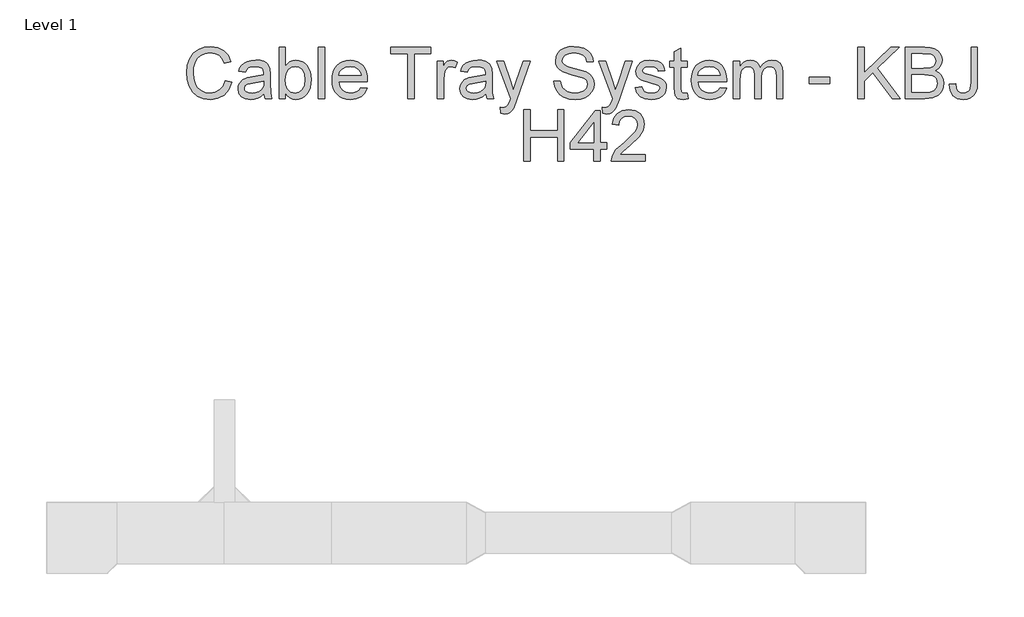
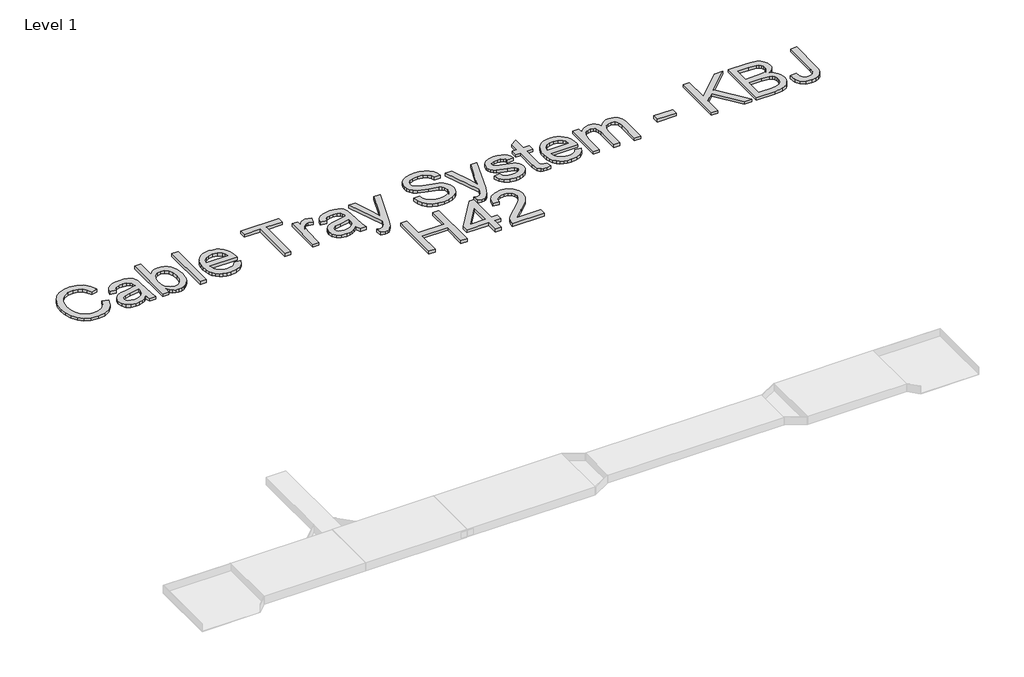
# One storey, part 31 of 106: 1 proxy.
"""IFC4 building model written with IfcOpenShell, lengths in millimetres."""

import ifcopenshell
import ifcopenshell.guid

model = None  # the IFC model being written
_history = None  # IfcOwnerHistory: only IFC2X3 demands one
_inside = {}  # id of a spatial element -> (the spatial element, [elements in it])
_under = {}  # id of a project, library or spatial element -> (it, [spatial elements below it])
_declared = {}  # id of a project -> (the project, [libraries it declares])
_typed = {}  # id of a type object -> (the type object, [elements of that type])
_made_of = {}  # id of a material, layer set ... -> (it, [elements and type objects made of it])


def new_model(schema):
    """Start an empty IFC model of exactly this schema.

    Asked for "IFC4X3", IfcOpenShell would pick the latest addendum, in which some entities
    have other attributes; the version numbers below select the first issue.
    IFC2X3 requires an IfcOwnerHistory on every rooted entity: one is made here for all.
    """
    global model, _history
    if schema == "IFC4X3":
        model = ifcopenshell.file(schema_version=(4, 3, 0, 0))
    else:
        model = ifcopenshell.file(schema=schema)
    _inside.clear()
    _under.clear()
    _declared.clear()
    _typed.clear()
    _made_of.clear()
    _history = None
    if model.schema == "IFC2X3":
        org = make("IfcOrganization", Name="unknown")
        user = make(
            "IfcPersonAndOrganization",
            ThePerson=make("IfcPerson", FamilyName="unknown"),
            TheOrganization=org,
        )
        app = make(
            "IfcApplication",
            ApplicationDeveloper=org,
            Version="unknown",
            ApplicationFullName="unknown",
            ApplicationIdentifier="unknown",
        )
        _history = make(
            "IfcOwnerHistory",
            OwningUser=user,
            OwningApplication=app,
            ChangeAction="ADDED",
            CreationDate=0,
        )
    return model


def make(cls, **values):
    """One entity of the class cls with the attributes given. An attribute that is None is left unset."""
    return model.create_entity(
        cls, **{name: value for name, value in values.items() if value is not None}
    )


def rooted(cls, **values):
    """An entity with a GlobalId (a new one), such as an element, a storey or a relation."""
    return make(cls, GlobalId=ifcopenshell.guid.new(), OwnerHistory=_history, **values)


def si_unit(unit_type, name, prefix=None):
    """IfcSIUnit, for example si_unit("LENGTHUNIT", "METRE", prefix="MILLI")."""
    return make("IfcSIUnit", UnitType=unit_type, Prefix=prefix, Name=name)


def assignment(units):
    """IfcUnitAssignment: the units of a project."""
    return None if units is None else make("IfcUnitAssignment", Units=units)


def point(xyz):
    """IfcCartesianPoint."""
    return None if xyz is None else make("IfcCartesianPoint", Coordinates=xyz)


def direction(xyz):
    """IfcDirection."""
    return None if xyz is None else make("IfcDirection", DirectionRatios=xyz)


def frame(location, z_axis=None, x_axis=None):
    """IfcAxis2Placement3D, a coordinate frame: its origin and axes. An axis left out is left unset."""
    return make(
        "IfcAxis2Placement3D",
        Location=point(location),
        Axis=direction(z_axis),
        RefDirection=direction(x_axis),
    )


def origin():
    """The frame at (0, 0, 0) with its axes left unset."""
    return frame((0.0, 0.0, 0.0))


def origin_with_axes():
    """The frame at (0, 0, 0) with the z axis (0, 0, 1) and the x axis (1, 0, 0) written out."""
    return frame((0.0, 0.0, 0.0), z_axis=(0.0, 0.0, 1.0), x_axis=(1.0, 0.0, 0.0))


def place(relative_to, where):
    """IfcLocalPlacement: puts the frame where relative to a parent placement (None: the world)."""
    return make(
        "IfcLocalPlacement", PlacementRelTo=relative_to, RelativePlacement=where
    )


def context(
    kind, dimensions, precision=None, world=None, true_north=None, identifier=None
):
    """IfcGeometricRepresentationContext, for example the 3D "Model" context."""
    return make(
        "IfcGeometricRepresentationContext",
        ContextIdentifier=identifier,
        ContextType=kind,
        CoordinateSpaceDimension=dimensions,
        Precision=precision,
        WorldCoordinateSystem=world,
        TrueNorth=true_north,
    )


def project(units=None, contexts=None):
    """IfcProject with its units and contexts."""
    return rooted(
        "IfcProject",
        Name="project",
        RepresentationContexts=contexts,
        UnitsInContext=assignment(units),
    )


def spatial(cls, under=None, at=None, **own):
    """A site, building, storey or space (cls), placed at a placement, below another one or the project."""
    s = rooted(cls, ObjectPlacement=at, **own)
    if under is not None:
        _under.setdefault(under.id(), (under, []))[1].append(s)
    return s


def polyline(points):
    """IfcPolyline through the points."""
    return make("IfcPolyline", Points=[point(p) for p in points])


def outline(outer, holes=None, kind="AREA"):
    """IfcArbitraryClosedProfileDef: a profile drawn as a closed curve; with holes, ...WithVoids."""
    if holes is None:
        return make("IfcArbitraryClosedProfileDef", ProfileType=kind, OuterCurve=outer)
    return make(
        "IfcArbitraryProfileDefWithVoids",
        ProfileType=kind,
        OuterCurve=outer,
        InnerCurves=holes,
    )


def extrude(swept, where, along, depth):
    """IfcExtrudedAreaSolid: the profile swept, set in the frame where, extruded along a direction by depth."""
    return make(
        "IfcExtrudedAreaSolid",
        SweptArea=swept,
        Position=where,
        ExtrudedDirection=direction(along),
        Depth=depth,
    )


def shape(context_of_items, identifier, shape_type, items):
    """IfcShapeRepresentation: the items that make up one representation, for example the "Body"."""
    return make(
        "IfcShapeRepresentation",
        ContextOfItems=context_of_items,
        RepresentationIdentifier=identifier,
        RepresentationType=shape_type,
        Items=items,
    )


def made_of(thing, what):
    """Note that an element or type object is made of a material, layer set ...; save() writes the relation."""
    if what is not None:
        _made_of.setdefault(what.id(), (what, []))[1].append(thing)
    return thing


def element(
    cls,
    number,
    at=None,
    inside=None,
    cuts=None,
    type_object=None,
    material=None,
    context=None,
    identifier="Body",
    shape_type=None,
    held_by="IfcProductDefinitionShape",
    body=None,
    shapes=None,
    **own,
):
    """One element of the class cls, such as IfcWall. Its Tag is "e" and its number.

    at: its placement. inside: the storey or other place that contains it. cuts: it is an
    opening in that element (IfcRelVoidsElement). A single representation is given by context,
    identifier, shape_type and body (its items); several are given by shapes. held_by: the class
    of the entity that holds the representations. save() writes the other relations.
    """
    e = rooted(cls, Tag="e%d" % number, ObjectPlacement=at, **own)
    if body is not None:
        shapes = [shape(context, identifier, shape_type, body)]
    if shapes is not None:
        e.Representation = make(held_by, Representations=shapes)
    if inside is not None:
        _inside.setdefault(inside.id(), (inside, []))[1].append(e)
    if cuts is not None:
        rooted(
            "IfcRelVoidsElement", RelatingBuildingElement=cuts, RelatedOpeningElement=e
        )
    if type_object is not None:
        _typed.setdefault(type_object.id(), (type_object, []))[1].append(e)
    return made_of(e, material)


def aggregate(whole, parts):
    """IfcRelAggregates: a whole, such as a stair, and the parts it consists of."""
    return rooted("IfcRelAggregates", RelatingObject=whole, RelatedObjects=parts)


def save(model, path):
    """Write the relations noted so far, then the file.

    IfcRelAggregates (storeys below a building ...), IfcRelContainedInSpatialStructure (elements
    in a storey), IfcRelDefinesByType, IfcRelAssociatesMaterial and IfcRelDeclares: one each for
    every whole, place, type object, material and project.
    """
    for whole, parts in _under.values():
        aggregate(whole, parts)
    for where, things in _inside.values():
        rooted(
            "IfcRelContainedInSpatialStructure",
            RelatedElements=things,
            RelatingStructure=where,
        )
    for kind, things in _typed.values():
        rooted("IfcRelDefinesByType", RelatedObjects=things, RelatingType=kind)
    for what, things in _made_of.values():
        rooted("IfcRelAssociatesMaterial", RelatedObjects=things, RelatingMaterial=what)
    for by, libraries in _declared.values():
        rooted("IfcRelDeclares", RelatingContext=by, RelatedDefinitions=libraries)
    model.write(path)


model = new_model("IFC4")

# Units and contexts
model_context = context("Model", 3, world=origin())
ifc_project = project(units=[si_unit("LENGTHUNIT", "METRE", prefix="MILLI")], contexts=[model_context])

# Site, building, storey
site = spatial("IfcSite", under=ifc_project)
building = spatial("IfcBuilding", under=site)
storey = spatial("IfcBuildingStorey", under=building, Name="Level 1", Elevation=0.0)

# Proxy
placement = place(None, origin())
element("IfcBuildingElementProxy", 1, Name="250mm Arial 3", ObjectType="250mm Arial 3", at=placement, inside=storey, context=model_context, shape_type="SweptSolid", body=[
    extrude(outline(polyline([(-19320.7509883, 71592.4106539), (-19289.3583914, 71584.31725), (-19303.8437449, 71547.7359841), (-19326.5757865, 71521.01089), (-19356.4355418, 71504.6631338), (-19392.3040363, 71499.2138818), (-19428.7166897, 71503.3372258), (-19457.6337473, 71515.7072579), (-19479.7986375, 71535.8947824), (-19495.9547885, 71563.4706036), (-19505.8186245, 71595.8902044), (-19509.1065698, 71630.6090677), (-19505.3894288, 71667.2286547), (-19494.2380058, 71698.8511778), (-19476.2347807, 71724.472626), (-19451.9622332, 71743.0889878), (-19423.1754671, 71754.4243517), (-19391.629586, 71758.2028064), (-19357.2096268, 71753.3130415), (-19328.7524217, 71738.643747), (-19307.1470187, 71715.0992993), (-19293.282466, 71683.584075), (-19324.6750629, 71676.1038078), (-19335.5582386, 71698.9967978), (-19350.4268026, 71714.7007605), (-19369.4646958, 71723.7828472), (-19392.8558593, 71726.8102095), (-19419.8185439, 71723.4532863), (-19441.9681057, 71713.3825166), (-19458.7757143, 71697.6555613), (-19469.7125395, 71677.3300811), (-19475.7136145, 71654.3527848), (-19477.7139729, 71630.6703814), (-19475.3457325, 71601.6690174), (-19468.2410115, 71576.5917281), (-19456.1315625, 71556.3965394), (-19438.7491382, 71542.0414774), (-19417.910156, 71533.4652284), (-19395.4310333, 71530.6064787), (-19369.2271053, 71534.4998965), (-19347.3917761, 71546.1801498), (-19330.9060642, 71565.5246114), (-19320.7509883, 71592.4106539)])), origin_with_axes(), (0.0, 0.0, 1.0), 15.0),
    extrude(outline(polyline([(-19132.3954067, 71526.6824041), (-19147.3942623, 71513.8218627), (-19162.8376418, 71505.406562), (-19179.0780991, 71500.7620518), (-19196.4681876, 71499.2138818), (-19222.7027724, 71502.938687), (-19242.0548981, 71514.1131026), (-19253.9880704, 71531.0816596), (-19257.9657944, 71552.1888891), (-19256.4636096, 71565.2027147), (-19251.9570552, 71577.0209238), (-19236.1687862, 71595.0471415), (-19214.187837, 71605.3478374), (-19187.025883, 71610.0689897), (-19132.5793477, 71620.8601949), (-19132.3954067, 71627.8499528), (-19134.5567135, 71641.8601254), (-19141.0406336, 71651.0265185), (-19155.5413156, 71657.8323354), (-19175.7441685, 71660.100941), (-19194.4448366, 71658.591092), (-19207.5046474, 71654.0615449), (-19216.4104574, 71645.6845653), (-19222.6491229, 71632.6324187), (-19254.0417198, 71636.5564933), (-19248.5924678, 71653.7243198), (-19240.4607428, 71667.2133262), (-19228.8877884, 71677.5293505), (-19213.1148479, 71685.1782303), (-19193.8240357, 71689.914711), (-19171.6974666, 71691.4935379), (-19150.475274, 71690.098652), (-19133.6523369, 71685.9139943), (-19120.9680723, 71679.6216794), (-19112.161897, 71671.9038217), (-19102.5356515, 71650.5973228), (-19101.0028098, 71623.1288005), (-19101.0028098, 71584.0719953), (-19099.4086545, 71529.5334896), (-19093.1546606, 71503.1379564), (-19124.5472575, 71503.1379564), (-19132.3954067, 71526.6824041)]), holes=[polyline([(-19132.3954067, 71589.4675979), (-19183.0404947, 71579.8413524), (-19210.0491646, 71574.7523181), (-19222.2812409, 71566.4749732), (-19226.5731975, 71554.3961811), (-19224.235614, 71545.0611754), (-19217.2228635, 71537.4122956), (-19205.6882301, 71532.3079329), (-19189.784998, 71530.6064787), (-19172.9237399, 71532.4842097), (-19158.0245191, 71538.1174028), (-19145.9457269, 71546.4177403), (-19137.5457547, 71556.2969047), (-19133.8209495, 71566.4749732), (-19132.5793477, 71580.5771164), (-19132.3954067, 71589.4675979)])]), origin_with_axes(), (0.0, 0.0, 1.0), 15.0),
    extrude(outline(polyline([(-19026.4453921, 71503.1379564), (-19057.8379891, 71503.1379564), (-19057.8379891, 71754.2787318), (-19026.4453921, 71754.2787318), (-19026.4453921, 71661.1432733), (-19016.1217036, 71674.4215141), (-19004.4644429, 71683.9059718), (-18991.47361, 71689.5966464), (-18977.1492048, 71691.4935379), (-18960.9777254, 71689.7844195), (-18945.6952942, 71684.6570642), (-18932.1756309, 71676.4333687), (-18921.2924552, 71665.4352299), (-18906.3012639, 71635.5448178), (-18900.8750044, 71598.1128248), (-18906.4928691, 71556.2049342), (-18913.5151999, 71539.2746982), (-18923.346463, 71525.0269351), (-18935.1474276, 71513.7337243), (-18948.078863, 71505.6671451), (-18962.140769, 71500.8271976), (-18977.3331458, 71499.2138818), (-18992.1288998, 71501.2947143), (-19005.2461922, 71507.5372119), (-19016.685023, 71517.9413746), (-19026.4453921, 71532.5072023), (-19026.4453921, 71503.1379564)]), holes=[polyline([(-19026.4453921, 71596.6412968), (-19024.2994138, 71570.4603615), (-19017.8614789, 71552.7407121), (-19001.414088, 71536.140037), (-18980.0309471, 71530.6064787), (-18961.9127588, 71534.6838375), (-18946.4310582, 71546.9159138), (-18935.8084656, 71567.2260656), (-18932.2676014, 71595.5376509), (-18935.6628456, 71624.2631033), (-18945.8485784, 71644.3433289), (-18960.8474339, 71656.161538), (-18978.6820464, 71660.100941), (-18996.8002347, 71656.0235822), (-19012.2819353, 71643.7915059), (-19022.9045279, 71623.8492361), (-19026.4453921, 71596.6412968)])]), origin_with_axes(), (0.0, 0.0, 1.0), 15.0),
    extrude(outline(polyline([(-18865.5583329, 71503.1379564), (-18865.5583329, 71754.2787318), (-18834.165736, 71754.2787318), (-18834.165736, 71503.1379564), (-18865.5583329, 71503.1379564)])), origin_with_axes(), (0.0, 0.0, 1.0), 15.0),
    extrude(outline(polyline([(-18657.9502603, 71558.075001), (-18627.1708, 71554.1509264), (-18638.2609093, 71530.9590323), (-18655.9575662, 71513.6225933), (-18679.8622316, 71502.8160597), (-18709.576367, 71499.2138818), (-18729.0549522, 71500.7678), (-18746.4105517, 71505.4295547), (-18761.6431656, 71513.1991458), (-18774.7527938, 71524.0765733), (-18785.2949122, 71537.759101), (-18792.8249968, 71553.9439928), (-18797.3430475, 71572.6312485), (-18798.8490645, 71593.8208682), (-18797.3277191, 71615.7290074), (-18792.7636831, 71635.0389801), (-18785.1569564, 71651.7507861), (-18774.5075391, 71665.8644256), (-18761.4323999, 71677.0771622), (-18746.5485075, 71685.0862598), (-18729.8558619, 71689.8917184), (-18711.3544633, 71691.4935379), (-18693.4489568, 71689.8955505), (-18677.2564008, 71685.1015883), (-18662.7767954, 71677.1116512), (-18650.0101406, 71665.9257393), (-18639.5887334, 71651.8427566), (-18632.1448712, 71635.1616074), (-18627.6785538, 71615.8822916), (-18626.1897814, 71594.0048092), (-18626.3737224, 71585.5435233), (-18767.4564675, 71585.5435233), (-18762.0225439, 71562.0450609), (-18749.3995929, 71544.7699355), (-18731.18177, 71534.1473429), (-18708.9632303, 71530.6064787), (-18692.2552563, 71532.2466193), (-18678.18377, 71537.1670409), (-18666.7487714, 71545.6743121), (-18657.9502603, 71558.075001)]), holes=[polyline([(-18767.4564675, 71616.9361202), (-18657.5823783, 71616.9361202), (-18661.8283497, 71633.5214669), (-18670.1516798, 71645.3856612), (-18688.4538091, 71656.4221211), (-18711.4770906, 71660.100941), (-18732.6379695, 71657.1655493), (-18750.1353569, 71648.359374), (-18762.2984554, 71634.632777), (-18767.4564675, 71616.9361202)])]), origin_with_axes(), (0.0, 0.0, 1.0), 15.0),
    extrude(outline(polyline([(-18429.9860506, 71503.1379564), (-18429.9860506, 71722.8861348), (-18512.3916175, 71722.8861348), (-18512.3916175, 71754.2787318), (-18316.1878868, 71754.2787318), (-18316.1878868, 71722.8861348), (-18398.5934537, 71722.8861348), (-18398.5934537, 71503.1379564), (-18429.9860506, 71503.1379564)])), origin_with_axes(), (0.0, 0.0, 1.0), 15.0),
    extrude(outline(polyline([(-18284.7952899, 71503.1379564), (-18284.7952899, 71687.5694633), (-18257.3267676, 71687.5694633), (-18257.3267676, 71660.284882), (-18247.1793559, 71676.1038078), (-18237.8290218, 71685.423485), (-18218.2086487, 71691.4935379), (-18202.5736639, 71689.0716481), (-18186.6934245, 71681.8059787), (-18197.1780613, 71653.6630061), (-18219.2509811, 71660.100941), (-18228.6243077, 71658.5527709), (-18237.0012873, 71653.9082608), (-18248.3136587, 71636.7404343), (-18253.4026929, 71600.0748621), (-18253.4026929, 71503.1379564), (-18284.7952899, 71503.1379564)])), origin_with_axes(), (0.0, 0.0, 1.0), 15.0),
    extrude(outline(polyline([(-18049.3508129, 71526.6824041), (-18064.3496685, 71513.8218627), (-18079.793048, 71505.406562), (-18096.0335053, 71500.7620518), (-18113.4235938, 71499.2138818), (-18139.6581786, 71502.938687), (-18159.0103043, 71514.1131026), (-18170.9434766, 71531.0816596), (-18174.9212006, 71552.1888891), (-18173.4190158, 71565.2027147), (-18168.9124614, 71577.0209238), (-18153.1241924, 71595.0471415), (-18131.1432432, 71605.3478374), (-18103.9812892, 71610.0689897), (-18049.5347539, 71620.8601949), (-18049.3508129, 71627.8499528), (-18051.5121197, 71641.8601254), (-18057.9960398, 71651.0265185), (-18072.4967218, 71657.8323354), (-18092.6995747, 71660.100941), (-18111.4002428, 71658.591092), (-18124.4600536, 71654.0615449), (-18133.3658636, 71645.6845653), (-18139.6045291, 71632.6324187), (-18170.997126, 71636.5564933), (-18165.547874, 71653.7243198), (-18157.416149, 71667.2133262), (-18145.8431946, 71677.5293505), (-18130.0702541, 71685.1782303), (-18110.7794419, 71689.914711), (-18088.6528728, 71691.4935379), (-18067.4306802, 71690.098652), (-18050.6077431, 71685.9139943), (-18037.9234785, 71679.6216794), (-18029.1173032, 71671.9038217), (-18019.4910577, 71650.5973228), (-18017.958216, 71623.1288005), (-18017.958216, 71584.0719953), (-18016.3640607, 71529.5334896), (-18010.1100668, 71503.1379564), (-18041.5026637, 71503.1379564), (-18049.3508129, 71526.6824041)]), holes=[polyline([(-18049.3508129, 71589.4675979), (-18099.9959009, 71579.8413524), (-18127.0045708, 71574.7523181), (-18139.2366471, 71566.4749732), (-18143.5286037, 71554.3961811), (-18141.1910202, 71545.0611754), (-18134.1782697, 71537.4122956), (-18122.6436363, 71532.3079329), (-18106.7404042, 71530.6064787), (-18089.8791461, 71532.4842097), (-18074.9799253, 71538.1174028), (-18062.9011331, 71546.4177403), (-18054.5011609, 71556.2969047), (-18050.7763557, 71566.4749732), (-18049.5347539, 71580.5771164), (-18049.3508129, 71589.4675979)])]), origin_with_axes(), (0.0, 0.0, 1.0), 15.0),
    extrude(outline(polyline([(-17974.7933953, 71432.5046133), (-17978.7174699, 71462.7322506), (-17962.7759167, 71459.9731356), (-17947.8766959, 71463.4373577), (-17938.7409597, 71473.0942601), (-17930.1570465, 71496.2095122), (-17927.7044999, 71503.8124067), (-17994.4137683, 71687.5694633), (-17961.3043888, 71687.5694633), (-17925.9264036, 71585.1756413), (-17913.6023567, 71544.2181125), (-17901.2783099, 71580.3931754), (-17864.919306, 71687.5694633), (-17832.0551811, 71687.5694633), (-17896.2505893, 71498.7233725), (-17912.9279064, 71457.7658437), (-17921.4658344, 71444.6907044), (-17931.1380652, 71435.6316103), (-17942.3737944, 71430.3433066), (-17955.6022178, 71428.5805387), (-17974.7933953, 71432.5046133)])), origin_with_axes(), (0.0, 0.0, 1.0), 15.0),
    extrude(outline(polyline([(-17715.8044707, 71589.4675979), (-17684.4118737, 71589.4675979), (-17680.8096959, 71572.0468526), (-17674.2951189, 71558.0443442), (-17664.1323787, 71546.9312422), (-17649.5857115, 71538.1787164), (-17631.8047484, 71532.4995381), (-17611.9391207, 71530.6064787), (-17594.4493975, 71532.0396856), (-17579.1363094, 71536.3393065), (-17566.7279563, 71543.1451234), (-17557.9524379, 71552.0969186), (-17552.7331121, 71562.3746218), (-17550.9933368, 71573.1581628), (-17556.2049984, 71592.7478791), (-17564.1451181, 71600.4963936), (-17577.5421541, 71607.0033064), (-17623.251492, 71618.990128), (-17672.4557089, 71634.4718287), (-17688.0830295, 71645.0331076), (-17699.1578104, 71657.8323354), (-17705.7566937, 71672.5936004), (-17707.9563214, 71689.0409913), (-17705.2355275, 71707.4274268), (-17697.0731457, 71724.5722607), (-17683.6837739, 71739.1035995), (-17665.28201, 71749.64955), (-17643.1937619, 71756.0644923), (-17618.7449376, 71758.2028064), (-17592.2574339, 71755.9648576), (-17569.0808682, 71749.2510112), (-17550.042975, 71738.1992229), (-17535.9714887, 71722.9474485), (-17527.0656787, 71704.4460498), (-17523.5248145, 71683.6453887), (-17554.9174114, 71683.6453887), (-17560.680896, 71702.3767136), (-17572.6983745, 71715.8963769), (-17591.4756847, 71724.0817513), (-17617.5186643, 71726.8102095), (-17644.1747805, 71724.1124082), (-17662.4615814, 71716.0190043), (-17673.0381887, 71704.1088247), (-17676.5637245, 71689.9606963), (-17674.0651926, 71677.8972325), (-17666.569597, 71668.1943449), (-17648.8499475, 71659.5184612), (-17615.3113723, 71650.6586365), (-17559.761191, 71634.9010243), (-17541.8652648, 71623.5120109), (-17529.3802696, 71609.455853), (-17522.0456223, 71592.8858348), (-17519.6007399, 71573.9552405), (-17522.4135043, 71554.6031147), (-17530.8517976, 71536.4006201), (-17544.5707303, 71520.7349785), (-17563.2254132, 71508.9934115), (-17585.6585506, 71501.6587642), (-17610.7128474, 71499.2138818), (-17641.469315, 71501.8503694), (-17666.7841948, 71509.7598323), (-17686.9487267, 71522.9729273), (-17702.2541505, 71541.5203112), (-17712.0796655, 71564.1143971), (-17715.8044707, 71589.4675979)])), origin_with_axes(), (0.0, 0.0, 1.0), 15.0),
    extrude(outline(polyline([(-17476.4359191, 71432.5046133), (-17480.3599937, 71462.7322506), (-17464.4184406, 71459.9731356), (-17449.5192198, 71463.4373577), (-17440.3834836, 71473.0942601), (-17431.7995704, 71496.2095122), (-17429.3470237, 71503.8124067), (-17496.0562922, 71687.5694633), (-17462.9469126, 71687.5694633), (-17427.5689274, 71585.1756413), (-17415.2448806, 71544.2181125), (-17402.9208338, 71580.3931754), (-17366.5618299, 71687.5694633), (-17333.697705, 71687.5694633), (-17397.8931132, 71498.7233725), (-17414.5704303, 71457.7658437), (-17423.1083582, 71444.6907044), (-17432.780589, 71435.6316103), (-17444.0163183, 71430.3433066), (-17457.2447417, 71428.5805387), (-17476.4359191, 71432.5046133)])), origin_with_axes(), (0.0, 0.0, 1.0), 15.0),
    extrude(outline(polyline([(-17319.4729345, 71558.075001), (-17288.0803376, 71561.9990756), (-17283.1292591, 71548.5713828), (-17273.5489988, 71538.6998826), (-17259.2782431, 71532.6298297), (-17240.2556782, 71530.6064787), (-17221.4630396, 71532.4612171), (-17208.2499446, 71538.0254323), (-17200.4324522, 71546.0881793), (-17197.8266214, 71555.4385134), (-17200.4477807, 71563.4399468), (-17208.3112583, 71569.5406565), (-17240.6235602, 71578.4924517), (-17287.8963966, 71593.851525), (-17299.8602256, 71601.5693827), (-17308.5284452, 71611.7857723), (-17313.7937562, 71623.8492361), (-17315.5488599, 71637.1083163), (-17309.9080026, 71660.4994798), (-17294.5182725, 71678.3724134), (-17274.5606743, 71687.6614338), (-17247.5520045, 71691.4935379), (-17227.1192253, 71689.9530321), (-17209.3535906, 71685.3315145), (-17195.0675065, 71678.0811735), (-17185.0733789, 71668.6541974), (-17178.451503, 71656.3531432), (-17174.2821738, 71640.4805679), (-17205.6747707, 71636.5564933), (-17209.6371663, 71646.4356577), (-17217.4776514, 71653.8776039), (-17229.2728678, 71658.5451067), (-17245.0994578, 71660.100941), (-17263.1256756, 71658.6140846), (-17275.1431541, 71654.1535154), (-17281.9029858, 71647.7155805), (-17284.156263, 71640.2966269), (-17280.4161294, 71631.1608907), (-17268.7052192, 71624.2324465), (-17241.6658925, 71617.5492569), (-17195.5886726, 71602.7726634), (-17183.41791, 71595.7062634), (-17174.1902033, 71586.0340326), (-17168.3730692, 71573.7253142), (-17166.4340245, 71558.7494513), (-17168.7102944, 71543.2677507), (-17175.5391039, 71528.7057551), (-17186.65987, 71516.2054314), (-17201.8120097, 71506.9087468), (-17220.114139, 71501.137598), (-17240.6848739, 71499.2138818), (-17272.3380539, 71502.9233586), (-17295.4379775, 71514.0517889), (-17310.8583645, 71532.4765455), (-17319.4729345, 71558.075001)])), origin_with_axes(), (0.0, 0.0, 1.0), 15.0),
    extrude(outline(polyline([(-17064.4080845, 71529.3188917), (-17060.4840099, 71502.2182514), (-17083.9671439, 71499.2138818), (-17099.0349773, 71500.5167972), (-17110.2707066, 71504.4255434), (-17123.3918311, 71518.0984909), (-17127.1932784, 71553.7217307), (-17127.1932784, 71656.1768664), (-17150.7377261, 71656.1768664), (-17150.7377261, 71687.5694633), (-17127.1932784, 71687.5694633), (-17127.1932784, 71732.3897531), (-17095.8006814, 71750.8451665), (-17095.8006814, 71687.5694633), (-17064.4080845, 71687.5694633), (-17064.4080845, 71656.1768664), (-17095.8006814, 71656.1768664), (-17095.8006814, 71554.6414357), (-17094.1452125, 71538.4546279), (-17088.7802667, 71532.7218002), (-17078.081032, 71530.6064787), (-17064.4080845, 71529.3188917)])), origin_with_axes(), (0.0, 0.0, 1.0), 15.0),
    extrude(outline(polyline([(-16903.8889073, 71558.075001), (-16873.109447, 71554.1509264), (-16884.1995563, 71530.9590323), (-16901.8962132, 71513.6225933), (-16925.8008786, 71502.8160597), (-16955.515014, 71499.2138818), (-16974.9935992, 71500.7678), (-16992.3491987, 71505.4295547), (-17007.5818126, 71513.1991458), (-17020.6914408, 71524.0765733), (-17031.2335592, 71537.759101), (-17038.7636438, 71553.9439928), (-17043.2816945, 71572.6312485), (-17044.7877114, 71593.8208682), (-17043.2663661, 71615.7290074), (-17038.7023301, 71635.0389801), (-17031.0956034, 71651.7507861), (-17020.4461861, 71665.8644256), (-17007.3710469, 71677.0771622), (-16992.4871545, 71685.0862598), (-16975.7945089, 71689.8917184), (-16957.2931103, 71691.4935379), (-16939.3876038, 71689.8955505), (-16923.1950478, 71685.1015883), (-16908.7154424, 71677.1116512), (-16895.9487876, 71665.9257393), (-16885.5273804, 71651.8427566), (-16878.0835182, 71635.1616074), (-16873.6172008, 71615.8822916), (-16872.1284284, 71594.0048092), (-16872.3123694, 71585.5435233), (-17013.3951145, 71585.5435233), (-17007.9611909, 71562.0450609), (-16995.3382399, 71544.7699355), (-16977.120417, 71534.1473429), (-16954.9018773, 71530.6064787), (-16938.1939033, 71532.2466193), (-16924.122417, 71537.1670409), (-16912.6874183, 71545.6743121), (-16903.8889073, 71558.075001)]), holes=[polyline([(-17013.3951145, 71616.9361202), (-16903.5210253, 71616.9361202), (-16907.7669967, 71633.5214669), (-16916.0903268, 71645.3856612), (-16934.3924561, 71656.4221211), (-16957.4157376, 71660.100941), (-16978.5766165, 71657.1655493), (-16996.0740039, 71648.359374), (-17008.2371024, 71634.632777), (-17013.3951145, 71616.9361202)])]), origin_with_axes(), (0.0, 0.0, 1.0), 15.0),
    extrude(outline(polyline([(-16840.7358315, 71503.1379564), (-16840.7358315, 71687.5694633), (-16809.3432345, 71687.5694633), (-16809.3432345, 71657.2191987), (-16799.90093, 71671.1603935), (-16787.7608242, 71682.0818902), (-16773.3367843, 71689.140626), (-16757.0426776, 71691.4935379), (-16739.5836112, 71689.0946407), (-16725.588767, 71681.8979492), (-16715.1347869, 71670.3786442), (-16708.2983132, 71655.0119067), (-16696.8556503, 71670.9726204), (-16683.8035037, 71682.3731301), (-16669.1418733, 71689.213436), (-16652.8707593, 71691.4935379), (-16629.2726621, 71687.6997549), (-16611.82126, 71676.3184056), (-16601.037719, 71657.0429219), (-16597.4432053, 71629.5667354), (-16597.4432053, 71503.1379564), (-16628.8358022, 71503.1379564), (-16628.8358022, 71616.0777289), (-16631.7482014, 71642.2893211), (-16642.2941519, 71655.1958477), (-16660.2283992, 71660.100941), (-16677.2352772, 71656.9586156), (-16691.0998299, 71647.5316395), (-16700.3198724, 71631.1762191), (-16703.3932199, 71607.248561), (-16703.3932199, 71503.1379564), (-16734.7858168, 71503.1379564), (-16734.7858168, 71619.5726079), (-16736.6022342, 71637.3229141), (-16742.0514863, 71649.9841861), (-16751.6394108, 71657.5717523), (-16765.8718454, 71660.100941), (-16777.965966, 71658.4148152), (-16789.1097248, 71653.3564378), (-16798.3067747, 71645.048436), (-16804.5607686, 71633.6134374), (-16809.3432345, 71596.1507875), (-16809.3432345, 71503.1379564), (-16840.7358315, 71503.1379564)])), origin_with_axes(), (0.0, 0.0, 1.0), 15.0),
    extrude(outline(polyline([(-16467.948743, 71577.6953741), (-16467.948743, 71609.087971), (-16369.8468776, 71609.087971), (-16369.8468776, 71577.6953741), (-16467.948743, 71577.6953741)])), origin_with_axes(), (0.0, 0.0, 1.0), 15.0),
    extrude(outline(polyline([(-16232.5042661, 71503.1379564), (-16232.5042661, 71754.2787318), (-16201.1116692, 71754.2787318), (-16201.1116692, 71631.3448317), (-16072.3529709, 71754.2787318), (-16028.4523861, 71754.2787318), (-16136.548379, 71651.0265185), (-16024.5283115, 71503.1379564), (-16062.9106663, 71503.1379564), (-16158.8052397, 71629.8119901), (-16201.1116692, 71589.4675979), (-16201.1116692, 71503.1379564), (-16232.5042661, 71503.1379564)])), origin_with_axes(), (0.0, 0.0, 1.0), 15.0),
    extrude(outline(polyline([(-16000.9838638, 71503.1379564), (-16000.9838638, 71754.2787318), (-15905.1506041, 71754.2787318), (-15878.7933919, 71752.4316576), (-15858.2149928, 71746.890435), (-15842.4420523, 71737.5171084), (-15830.5012159, 71724.1737218), (-15822.9826276, 71708.4774234), (-15820.4764315, 71692.0453609), (-15822.5840888, 71676.9238781), (-15828.9070606, 71662.7067718), (-15839.4913321, 71650.2677618), (-15854.3828887, 71640.4805679), (-15836.5942614, 71631.1915476), (-15823.4501443, 71617.0587476), (-15815.3337478, 71599.0172014), (-15812.6282823, 71578.0019424), (-15814.4753565, 71560.4892266), (-15820.016579, 71544.2487694), (-15828.2862597, 71530.4378661), (-15838.3187083, 71520.2138123), (-15865.6339464, 71507.4605698), (-15905.886368, 71503.1379564), (-16000.9838638, 71503.1379564)]), holes=[polyline([(-15969.5912669, 71652.2527918), (-15912.2629893, 71652.2527918), (-15878.7857277, 71654.9505931), (-15867.0671533, 71659.6027675), (-15858.6441885, 71666.5695328), (-15853.5628184, 71675.74359), (-15851.8690284, 71687.0176403), (-15853.4478553, 71697.9621297), (-15858.184336, 71707.4964047), (-15865.8638727, 71714.9383509), (-15876.2718674, 71719.6058537), (-15916.6162596, 71722.8861348), (-15969.5912669, 71722.8861348), (-15969.5912669, 71652.2527918)]), polyline([(-15969.5912669, 71534.5305533), (-15905.2119177, 71534.5305533), (-15881.9127247, 71535.7568266), (-15862.2003811, 71542.5933004), (-15849.1405703, 71556.5421594), (-15844.0208792, 71577.6953741), (-15845.523064, 71590.8164986), (-15850.0296184, 71602.0982131), (-15857.9007603, 71610.9197168), (-15869.4967074, 71616.6602087), (-15908.277601, 71620.8601949), (-15969.5912669, 71620.8601949), (-15969.5912669, 71534.5305533)])]), origin_with_axes(), (0.0, 0.0, 1.0), 15.0),
    extrude(outline(polyline([(-15785.15976, 71573.6486721), (-15753.767163, 71577.6953741), (-15750.5022103, 71554.871362), (-15743.0372715, 71540.6006062), (-15731.6329297, 71533.1050106), (-15716.5497679, 71530.6064787), (-15704.9538208, 71532.0243572), (-15695.059328, 71536.2779928), (-15687.4257766, 71542.9765108), (-15682.6126538, 71551.7290366), (-15679.2097454, 71582.845722), (-15679.2097454, 71754.2787318), (-15647.8171484, 71754.2787318), (-15647.8171484, 71583.397545), (-15649.7102079, 71555.4461776), (-15655.3893862, 71534.6225238), (-15665.1842443, 71519.4090705), (-15679.4243432, 71508.2883043), (-15697.304941, 71501.4824874), (-15718.0212958, 71499.2138818), (-15747.0379882, 71503.896713), (-15768.3598155, 71517.9452067), (-15781.296999, 71541.2367355), (-15785.15976, 71573.6486721)])), origin_with_axes(), (0.0, 0.0, 1.0), 15.0),
    extrude(outline(polyline([(-17862.9572687, 71198.2009118), (-17862.9572687, 71449.3416872), (-17831.5646718, 71449.3416872), (-17831.5646718, 71347.3157472), (-17698.1461349, 71347.3157472), (-17698.1461349, 71449.3416872), (-17666.753538, 71449.3416872), (-17666.753538, 71198.2009118), (-17698.1461349, 71198.2009118), (-17698.1461349, 71315.9231502), (-17831.5646718, 71315.9231502), (-17831.5646718, 71198.2009118), (-17862.9572687, 71198.2009118)])), origin_with_axes(), (0.0, 0.0, 1.0), 15.0),
    extrude(outline(polyline([(-17521.5627772, 71198.2009118), (-17521.5627772, 71257.062031), (-17635.360941, 71257.062031), (-17635.360941, 71288.4546279), (-17513.714628, 71445.4176125), (-17490.1701803, 71445.4176125), (-17490.1701803, 71288.4546279), (-17458.7775834, 71288.4546279), (-17458.7775834, 71257.062031), (-17490.1701803, 71257.062031), (-17490.1701803, 71198.2009118), (-17521.5627772, 71198.2009118)]), holes=[polyline([(-17521.5627772, 71288.4546279), (-17521.5627772, 71385.4528473), (-17596.7333315, 71288.4546279), (-17521.5627772, 71288.4546279)])]), origin_with_axes(), (0.0, 0.0, 1.0), 15.0),
    extrude(outline(polyline([(-17270.4220018, 71229.5935087), (-17270.4220018, 71198.2009118), (-17435.2331357, 71198.2009118), (-17431.860884, 71219.8446358), (-17424.1200337, 71236.7595434), (-17412.792334, 71253.1686132), (-17373.4902741, 71289.5582739), (-17339.6144738, 71319.6479554), (-17319.2889935, 71341.8588309), (-17309.1262534, 71359.8850487), (-17305.7386734, 71377.4207571), (-17308.9346482, 71393.1400482), (-17318.5225727, 71406.2075232), (-17333.2608451, 71415.0136985), (-17351.9078638, 71417.9490902), (-17371.4899158, 71415.0826764), (-17386.7033691, 71406.4834347), (-17396.5212199, 71392.8258156), (-17399.9164641, 71374.7842695), (-17431.309061, 71378.7083441), (-17423.6985023, 71409.0739371), (-17407.2434472, 71431.2541557), (-17382.8022871, 71444.8198043), (-17351.2334134, 71449.3416872), (-17319.4346135, 71444.3139666), (-17295.0394387, 71429.2308048), (-17279.519417, 71406.6980325), (-17274.3460764, 71379.3214807), (-17279.92562, 71349.553696), (-17298.473004, 71318.7742357), (-17343.4465779, 71275.7626991), (-17379.5603271, 71245.5657187), (-17393.7237839, 71229.5935087), (-17270.4220018, 71229.5935087)])), origin_with_axes(), (0.0, 0.0, 1.0), 15.0),
])

save(model, "model.ifc")
